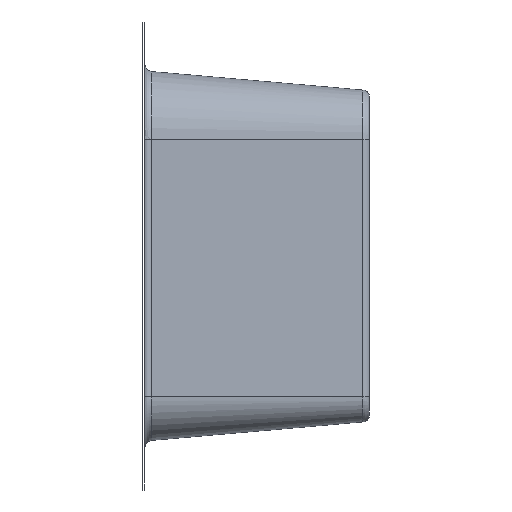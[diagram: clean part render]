
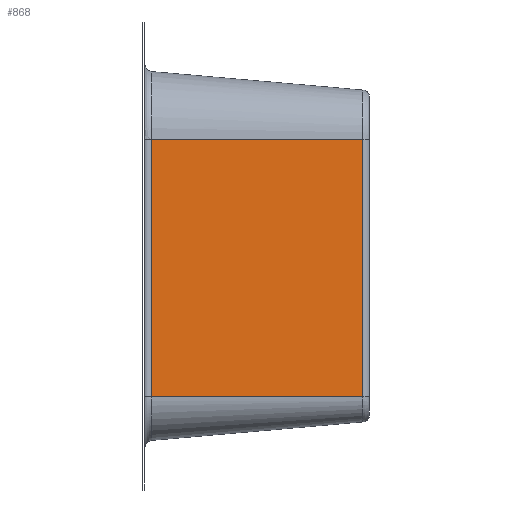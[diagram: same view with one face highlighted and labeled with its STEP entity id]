
A CAD part, left-side view. The second image highlights one B-rep face of the part: STEP entity #868.
In plain terms, the highlighted free-form (B-spline) face has degree [5, 1] with [6, 2] control points.
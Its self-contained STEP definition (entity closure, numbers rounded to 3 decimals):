
#273=CARTESIAN_POINT('Vertex',(-0.24,2.739,115.)) ;
#276=CARTESIAN_POINT('Line Origine',(-0.24,2.739,68.628)) ;
#280=CARTESIAN_POINT('Vertex',(-0.24,2.739,10.)) ;
#822=CARTESIAN_POINT('Control Point',(-8.018,91.65,10.)) ;
#823=CARTESIAN_POINT('Control Point',(0.,0.,10.)) ;
#824=CARTESIAN_POINT('Control Point',(-8.018,91.65,31.)) ;
#825=CARTESIAN_POINT('Control Point',(0.,0.,31.)) ;
#826=CARTESIAN_POINT('Control Point',(-8.018,91.65,52.)) ;
#827=CARTESIAN_POINT('Control Point',(0.,0.,52.)) ;
#828=CARTESIAN_POINT('Control Point',(-8.018,91.65,73.)) ;
#829=CARTESIAN_POINT('Control Point',(0.,0.,73.)) ;
#830=CARTESIAN_POINT('Control Point',(-8.018,91.65,94.)) ;
#831=CARTESIAN_POINT('Control Point',(0.,0.,94.)) ;
#832=CARTESIAN_POINT('Control Point',(-8.018,91.65,115.)) ;
#833=CARTESIAN_POINT('Control Point',(0.,0.,115.)) ;
#835=CARTESIAN_POINT('Control Point',(-7.779,88.911,115.)) ;
#836=CARTESIAN_POINT('Control Point',(-6.271,71.677,115.)) ;
#837=CARTESIAN_POINT('Control Point',(-4.763,54.442,115.)) ;
#838=CARTESIAN_POINT('Control Point',(-3.255,37.208,115.)) ;
#839=CARTESIAN_POINT('Control Point',(-1.747,19.973,115.)) ;
#840=CARTESIAN_POINT('Control Point',(-0.24,2.739,115.)) ;
#841=CARTESIAN_POINT('Vertex',(-7.779,88.911,115.)) ;
#845=CARTESIAN_POINT('Control Point',(-7.779,88.911,10.)) ;
#846=CARTESIAN_POINT('Control Point',(-7.779,88.911,31.)) ;
#847=CARTESIAN_POINT('Control Point',(-7.779,88.911,52.)) ;
#848=CARTESIAN_POINT('Control Point',(-7.779,88.911,73.)) ;
#849=CARTESIAN_POINT('Control Point',(-7.779,88.911,94.)) ;
#850=CARTESIAN_POINT('Control Point',(-7.779,88.911,115.)) ;
#851=CARTESIAN_POINT('Vertex',(-7.779,88.911,10.)) ;
#855=CARTESIAN_POINT('Control Point',(-7.779,88.911,10.)) ;
#856=CARTESIAN_POINT('Control Point',(-6.271,71.677,10.)) ;
#857=CARTESIAN_POINT('Control Point',(-4.763,54.442,10.)) ;
#858=CARTESIAN_POINT('Control Point',(-3.255,37.208,10.)) ;
#859=CARTESIAN_POINT('Control Point',(-1.747,19.973,10.)) ;
#860=CARTESIAN_POINT('Control Point',(-0.24,2.739,10.)) ;
#277=DIRECTION('Vector Direction',(0.,0.,1.)) ;
#863=ORIENTED_EDGE('',*,*,#282,.F.) ;
#864=ORIENTED_EDGE('',*,*,#843,.F.) ;
#865=ORIENTED_EDGE('',*,*,#853,.F.) ;
#866=ORIENTED_EDGE('',*,*,#861,.T.) ;
#278=VECTOR('Line Direction',#277,1.) ;
#868=ADVANCED_FACE('base',(#867),#821,.F.) ;
#834=B_SPLINE_CURVE_WITH_KNOTS('',5,(#835,#836,#837,#838,#839,#840),.UNSPECIFIED.,.F.,.U.,(6,6),(2.749,89.251),.UNSPECIFIED.) ;
#844=B_SPLINE_CURVE_WITH_KNOTS('',5,(#845,#846,#847,#848,#849,#850),.UNSPECIFIED.,.F.,.U.,(6,6),(0.,105.),.UNSPECIFIED.) ;
#854=B_SPLINE_CURVE_WITH_KNOTS('',5,(#855,#856,#857,#858,#859,#860),.UNSPECIFIED.,.F.,.U.,(6,6),(2.749,89.251),.UNSPECIFIED.) ;
#821=B_SPLINE_SURFACE_WITH_KNOTS('',5,1,((#822,#823),(#824,#825),(#826,#827),(#828,#829),(#830,#831),(#832,#833)),.UNSPECIFIED.,.F.,.F.,.U.,(6,6),(2,2),(0.,105.),(0.,92.),.UNSPECIFIED.) ;
#282=EDGE_CURVE('',#274,#281,#279,.F.) ;
#843=EDGE_CURVE('',#842,#274,#834,.T.) ;
#853=EDGE_CURVE('',#852,#842,#844,.T.) ;
#861=EDGE_CURVE('',#852,#281,#854,.T.) ;
#862=EDGE_LOOP('',(#863,#864,#865,#866)) ;
#867=FACE_OUTER_BOUND('',#862,.T.) ;
#279=LINE('Line',#276,#278) ;
#274=VERTEX_POINT('',#273) ;
#281=VERTEX_POINT('',#280) ;
#842=VERTEX_POINT('',#841) ;
#852=VERTEX_POINT('',#851) ;
